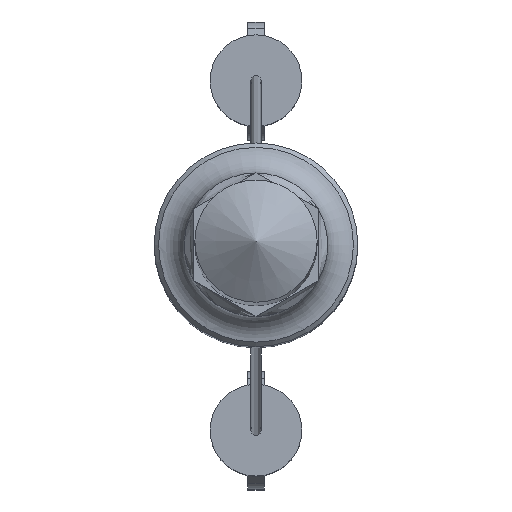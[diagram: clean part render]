
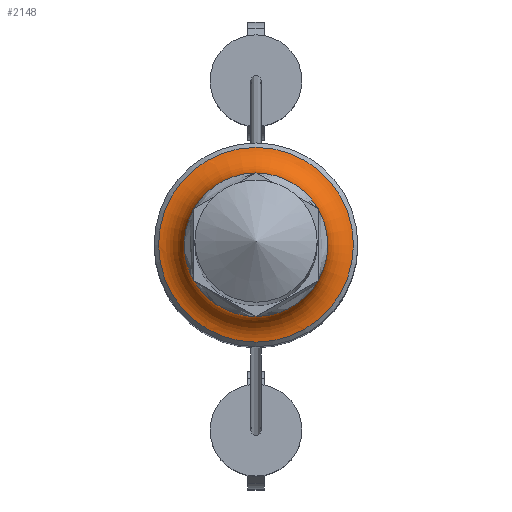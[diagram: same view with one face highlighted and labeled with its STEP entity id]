
A CAD part, top view. The second image highlights one B-rep face of the part: STEP entity #2148.
In plain terms, the highlighted toroidal (fillet/blend) face has major radius 5.02 mm and minor radius 1.5 mm.
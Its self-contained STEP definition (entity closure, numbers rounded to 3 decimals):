
#33 = CARTESIAN_POINT ( 'NONE',  ( -0.597, 3.483, -3.5 ) ) ;
#39 = CARTESIAN_POINT ( 'NONE',  ( -3.477, 0.629, -3.5 ) ) ;
#78 = ORIENTED_EDGE ( 'NONE', *, *, #2662, .F. ) ;
#84 = CARTESIAN_POINT ( 'NONE',  ( 3.195, -1.506, -3.5 ) ) ;
#85 = CARTESIAN_POINT ( 'NONE',  ( -1.194, -3.326, -3.5 ) ) ;
#105 = VERTEX_POINT ( 'NONE', #2118 ) ;
#122 = CARTESIAN_POINT ( 'NONE',  ( 0.597, 3.483, -3.5 ) ) ;
#163 = CARTESIAN_POINT ( 'NONE',  ( 0., 0., -4.981 ) ) ;
#165 = CARTESIAN_POINT ( 'NONE',  ( 2.902, -2.014, -3.5 ) ) ;
#195 = ORIENTED_EDGE ( 'NONE', *, *, #1076, .F. ) ;
#206 = ORIENTED_EDGE ( 'NONE', *, *, #2260, .F. ) ;
#218 = B_SPLINE_CURVE_WITH_KNOTS ( 'NONE', 3,
 ( #2431, #84, #2005, #2420, #268, #936, #2199, #1752, #2391, #1798 ),
 .UNSPECIFIED., .F., .F.,
 ( 4, 2, 2, 2, 4 ),
 ( 0., 0.25, 0.5, 0.75, 1. ),
 .UNSPECIFIED. ) ;
#258 = CARTESIAN_POINT ( 'NONE',  ( -0.293, 3.52, -3.5 ) ) ;
#268 = CARTESIAN_POINT ( 'NONE',  ( 3.52, -0.314, -3.5 ) ) ;
#308 = CARTESIAN_POINT ( 'NONE',  ( 0., 0., -3.5 ) ) ;
#365 = CARTESIAN_POINT ( 'NONE',  ( 0., -3.52, -3.5 ) ) ;
#369 = EDGE_LOOP ( 'NONE', ( #1992 ) ) ;
#375 = CARTESIAN_POINT ( 'NONE',  ( 0., 3.52, -3.5 ) ) ;
#376 = DIRECTION ( 'NONE',  ( 0., 0., 1. ) ) ;
#378 = B_SPLINE_CURVE_WITH_KNOTS ( 'NONE', 3,
 ( #2030, #2730, #1394, #2054, #746, #1666, #2701, #122, #813, #375 ),
 .UNSPECIFIED., .F., .F.,
 ( 4, 2, 2, 2, 4 ),
 ( 0., 0.25, 0.5, 0.75, 1. ),
 .UNSPECIFIED. ) ;
#412 = EDGE_CURVE ( 'NONE', #1429, #1429, #1916, .T. ) ;
#426 = CARTESIAN_POINT ( 'NONE',  ( -3.477, -0.629, -3.5 ) ) ;
#493 = CARTESIAN_POINT ( 'NONE',  ( -2.283, -2.697, -3.5 ) ) ;
#512 = ORIENTED_EDGE ( 'NONE', *, *, #914, .F. ) ;
#571 = DIRECTION ( 'NONE',  ( 1., 0., 0. ) ) ;
#626 = CARTESIAN_POINT ( 'NONE',  ( -3.049, 1.76, -3.5 ) ) ;
#628 = VERTEX_POINT ( 'NONE', #954 ) ;
#733 = DIRECTION ( 'NONE',  ( 1., 0., 0. ) ) ;
#746 = CARTESIAN_POINT ( 'NONE',  ( 2.032, 2.891, -3.5 ) ) ;
#813 = CARTESIAN_POINT ( 'NONE',  ( 0.293, 3.52, -3.5 ) ) ;
#862 = CARTESIAN_POINT ( 'NONE',  ( -3.52, 0.314, -3.5 ) ) ;
#867 = CARTESIAN_POINT ( 'NONE',  ( -1.488, -3.206, -3.5 ) ) ;
#877 = CARTESIAN_POINT ( 'NONE',  ( -3.195, -1.506, -3.5 ) ) ;
#880 = B_SPLINE_CURVE_WITH_KNOTS ( 'NONE', 3,
 ( #365, #943, #1392, #2437, #2650, #1144, #2451, #1236, #165, #2425 ),
 .UNSPECIFIED., .F., .F.,
 ( 4, 2, 2, 2, 4 ),
 ( 0., 0.25, 0.5, 0.75, 1. ),
 .UNSPECIFIED. ) ;
#914 = EDGE_CURVE ( 'NONE', #1265, #1518, #993, .T. ) ;
#936 = CARTESIAN_POINT ( 'NONE',  ( 3.52, 0.314, -3.5 ) ) ;
#943 = CARTESIAN_POINT ( 'NONE',  ( 0.293, -3.52, -3.5 ) ) ;
#954 = CARTESIAN_POINT ( 'NONE',  ( 0., 3.52, -3.5 ) ) ;
#993 = B_SPLINE_CURVE_WITH_KNOTS ( 'NONE', 3,
 ( #2619, #1547, #2405, #493, #1348, #867, #85, #1726, #2060, #1668 ),
 .UNSPECIFIED., .F., .F.,
 ( 4, 2, 2, 2, 4 ),
 ( 0., 0.25, 0.5, 0.75, 1. ),
 .UNSPECIFIED. ) ;
#1076 = EDGE_CURVE ( 'NONE', #1389, #1265, #2591, .T. ) ;
#1116 = CARTESIAN_POINT ( 'NONE',  ( 0., 3.52, -3.5 ) ) ;
#1144 = CARTESIAN_POINT ( 'NONE',  ( 2.032, -2.891, -3.5 ) ) ;
#1162 = DIRECTION ( 'NONE',  ( 0., 0., 1. ) ) ;
#1184 = CARTESIAN_POINT ( 'NONE',  ( 0., -3.52, -3.5 ) ) ;
#1236 = CARTESIAN_POINT ( 'NONE',  ( 2.718, -2.258, -3.5 ) ) ;
#1259 = CARTESIAN_POINT ( 'NONE',  ( -3.52, -0.314, -3.5 ) ) ;
#1265 = VERTEX_POINT ( 'NONE', #2427 ) ;
#1281 = CARTESIAN_POINT ( 'NONE',  ( -3.315, 1.225, -3.5 ) ) ;
#1323 = CARTESIAN_POINT ( 'NONE',  ( -1.488, 3.206, -3.5 ) ) ;
#1348 = CARTESIAN_POINT ( 'NONE',  ( -2.032, -2.891, -3.5 ) ) ;
#1355 = FACE_OUTER_BOUND ( 'NONE', #2146, .T. ) ;
#1364 = EDGE_CURVE ( 'NONE', #105, #628, #378, .T. ) ;
#1389 = VERTEX_POINT ( 'NONE', #2483 ) ;
#1392 = CARTESIAN_POINT ( 'NONE',  ( 0.597, -3.483, -3.5 ) ) ;
#1394 = CARTESIAN_POINT ( 'NONE',  ( 2.718, 2.258, -3.5 ) ) ;
#1429 = VERTEX_POINT ( 'NONE', #2583 ) ;
#1518 = VERTEX_POINT ( 'NONE', #1184 ) ;
#1536 = TOROIDAL_SURFACE ( 'NONE', #2477, 5.02, 1.5 ) ;
#1547 = CARTESIAN_POINT ( 'NONE',  ( -2.902, -2.014, -3.5 ) ) ;
#1633 = ORIENTED_EDGE ( 'NONE', *, *, #1364, .F. ) ;
#1666 = CARTESIAN_POINT ( 'NONE',  ( 1.488, 3.206, -3.5 ) ) ;
#1668 = CARTESIAN_POINT ( 'NONE',  ( 0., -3.52, -3.5 ) ) ;
#1720 = CARTESIAN_POINT ( 'NONE',  ( -3.315, -1.225, -3.5 ) ) ;
#1726 = CARTESIAN_POINT ( 'NONE',  ( -0.597, -3.483, -3.5 ) ) ;
#1740 = AXIS2_PLACEMENT_3D ( 'NONE', #163, #376, #571 ) ;
#1744 = CARTESIAN_POINT ( 'NONE',  ( -2.902, 2.014, -3.5 ) ) ;
#1752 = CARTESIAN_POINT ( 'NONE',  ( 3.315, 1.225, -3.5 ) ) ;
#1760 = CARTESIAN_POINT ( 'NONE',  ( -2.032, 2.891, -3.5 ) ) ;
#1798 = CARTESIAN_POINT ( 'NONE',  ( 3.049, 1.76, -3.5 ) ) ;
#1916 = CIRCLE ( 'NONE', #1740, 4.781 ) ;
#1929 = ORIENTED_EDGE ( 'NONE', *, *, #2538, .F. ) ;
#1952 = CARTESIAN_POINT ( 'NONE',  ( 3.049, -1.76, -3.5 ) ) ;
#1969 = CARTESIAN_POINT ( 'NONE',  ( -3.049, 1.76, -3.5 ) ) ;
#1992 = ORIENTED_EDGE ( 'NONE', *, *, #412, .T. ) ;
#2005 = CARTESIAN_POINT ( 'NONE',  ( 3.315, -1.225, -3.5 ) ) ;
#2030 = CARTESIAN_POINT ( 'NONE',  ( 3.049, 1.76, -3.5 ) ) ;
#2054 = CARTESIAN_POINT ( 'NONE',  ( 2.283, 2.697, -3.5 ) ) ;
#2060 = CARTESIAN_POINT ( 'NONE',  ( -0.293, -3.52, -3.5 ) ) ;
#2118 = CARTESIAN_POINT ( 'NONE',  ( 3.049, 1.76, -3.5 ) ) ;
#2146 = EDGE_LOOP ( 'NONE', ( #1633, #1929, #206, #512, #195, #78 ) ) ;
#2148 = ADVANCED_FACE ( 'NONE', ( #2414, #1355 ), #1536, .F. ) ;
#2172 = CARTESIAN_POINT ( 'NONE',  ( -2.718, 2.258, -3.5 ) ) ;
#2199 = CARTESIAN_POINT ( 'NONE',  ( 3.477, 0.629, -3.5 ) ) ;
#2214 = B_SPLINE_CURVE_WITH_KNOTS ( 'NONE', 3,
 ( #1116, #258, #33, #2411, #1323, #1760, #2607, #2172, #1744, #1969 ),
 .UNSPECIFIED., .F., .F.,
 ( 4, 2, 2, 2, 4 ),
 ( 0., 0.25, 0.5, 0.75, 1. ),
 .UNSPECIFIED. ) ;
#2260 = EDGE_CURVE ( 'NONE', #1518, #2700, #880, .T. ) ;
#2391 = CARTESIAN_POINT ( 'NONE',  ( 3.195, 1.506, -3.5 ) ) ;
#2405 = CARTESIAN_POINT ( 'NONE',  ( -2.718, -2.258, -3.5 ) ) ;
#2411 = CARTESIAN_POINT ( 'NONE',  ( -1.194, 3.326, -3.5 ) ) ;
#2414 = FACE_OUTER_BOUND ( 'NONE', #369, .T. ) ;
#2420 = CARTESIAN_POINT ( 'NONE',  ( 3.477, -0.629, -3.5 ) ) ;
#2425 = CARTESIAN_POINT ( 'NONE',  ( 3.049, -1.76, -3.5 ) ) ;
#2427 = CARTESIAN_POINT ( 'NONE',  ( -3.049, -1.76, -3.5 ) ) ;
#2431 = CARTESIAN_POINT ( 'NONE',  ( 3.049, -1.76, -3.5 ) ) ;
#2437 = CARTESIAN_POINT ( 'NONE',  ( 1.194, -3.326, -3.5 ) ) ;
#2451 = CARTESIAN_POINT ( 'NONE',  ( 2.283, -2.697, -3.5 ) ) ;
#2477 = AXIS2_PLACEMENT_3D ( 'NONE', #308, #1162, #733 ) ;
#2483 = CARTESIAN_POINT ( 'NONE',  ( -3.049, 1.76, -3.5 ) ) ;
#2527 = CARTESIAN_POINT ( 'NONE',  ( -3.049, -1.76, -3.5 ) ) ;
#2538 = EDGE_CURVE ( 'NONE', #2700, #105, #218, .T. ) ;
#2583 = CARTESIAN_POINT ( 'NONE',  ( 4.781, 0., -4.981 ) ) ;
#2591 = B_SPLINE_CURVE_WITH_KNOTS ( 'NONE', 3,
 ( #626, #2744, #1281, #39, #862, #1259, #426, #1720, #877, #2527 ),
 .UNSPECIFIED., .F., .F.,
 ( 4, 2, 2, 2, 4 ),
 ( 0., 0.25, 0.5, 0.75, 1. ),
 .UNSPECIFIED. ) ;
#2607 = CARTESIAN_POINT ( 'NONE',  ( -2.283, 2.697, -3.5 ) ) ;
#2619 = CARTESIAN_POINT ( 'NONE',  ( -3.049, -1.76, -3.5 ) ) ;
#2650 = CARTESIAN_POINT ( 'NONE',  ( 1.488, -3.206, -3.5 ) ) ;
#2662 = EDGE_CURVE ( 'NONE', #628, #1389, #2214, .T. ) ;
#2700 = VERTEX_POINT ( 'NONE', #1952 ) ;
#2701 = CARTESIAN_POINT ( 'NONE',  ( 1.194, 3.326, -3.5 ) ) ;
#2730 = CARTESIAN_POINT ( 'NONE',  ( 2.902, 2.014, -3.5 ) ) ;
#2744 = CARTESIAN_POINT ( 'NONE',  ( -3.195, 1.506, -3.5 ) ) ;
